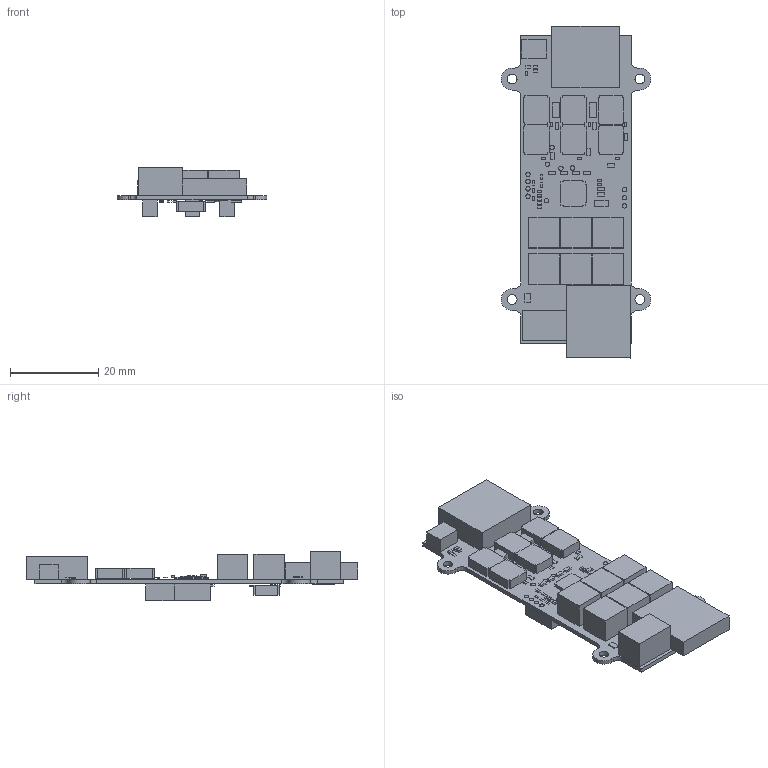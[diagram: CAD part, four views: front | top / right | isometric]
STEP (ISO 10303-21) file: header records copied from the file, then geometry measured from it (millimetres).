
FILE_DESCRIPTION(/* description */ ('PCB Design'),/* implementation_level */ '2;1');
FILE_NAME(/* name */ 'Bamb-DRV-01-V01',/* time_stamp */ '2024-10-22T15:12:34+08:00',/* author */ ('shiyong.xie'),/* organization */ (''),/* preprocessor_version */ 'ST-DEVELOPER v16',/* originating_system */ 'allegro_17.4S035',/* authorisation */ '');
FILE_SCHEMA (('AUTOMOTIVE_DESIGN { 1 0 10303 214 3 1 1 }'));
Length unit declared in the file: millimetre
Products named in the file (23): BAMB-DRV-01-V01; BOARD_OUTLINE; COMPONENTS; MR30PW-M; XT30PWM; 2512R; SOD723; 0805R; SMD_XH2P54_2P; SMD_SH_1P0_3P; QFN40_5X5; TP_C1; 0603R; DFN5X6_8L_EP1_P_AOS-L; SOT23_X2P8Y2P5; DFN2-1006; 0603C; 1206C; 0402C; CAP_2P0_D6P3X5P3_SMD; MARK_C1; QRCODE_5X5; 0402R
Assembly tree (99 placements, depth 3):
  BAMB-DRV-01-V01
    BOARD_OUTLINE
    COMPONENTS
      MR30PW-M
      XT30PWM
      2512R  x3
      SOD723
      0805R
      SMD_XH2P54_2P
      SMD_SH_1P0_3P
      QFN40_5X5
      TP_C1  x14
      0603R  x7
      DFN5X6_8L_EP1_P_AOS-L  x7
      SOT23_X2P8Y2P5
      DFN2-1006  x2
      0603C  x6
      1206C  x2
      0402C  x17
      CAP_2P0_D6P3X5P3_SMD  x6
      MARK_C1  x3
      QRCODE_5X5
      0402R  x21
Bounding box: 33.94 x 75.29 x 11.21 mm (x, y, z)
Surface area: 9106.4 mm2 (no closed solid volume)
Topology: 0 solids, 98 shells, 676 faces, 1551 edges, 960 vertices
Faces by surface type: plane 604, cylinder 72
Entity records: 6732 total; most frequent: ORIENTED_EDGE 924, DIRECTION 721, CARTESIAN_POINT 600, EDGE_CURVE 496, AXIS2_PLACEMENT_3D 478, VECTOR 412, LINE 412, VERTEX_POINT 376
